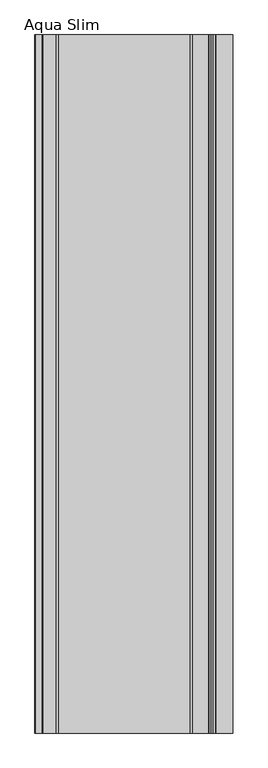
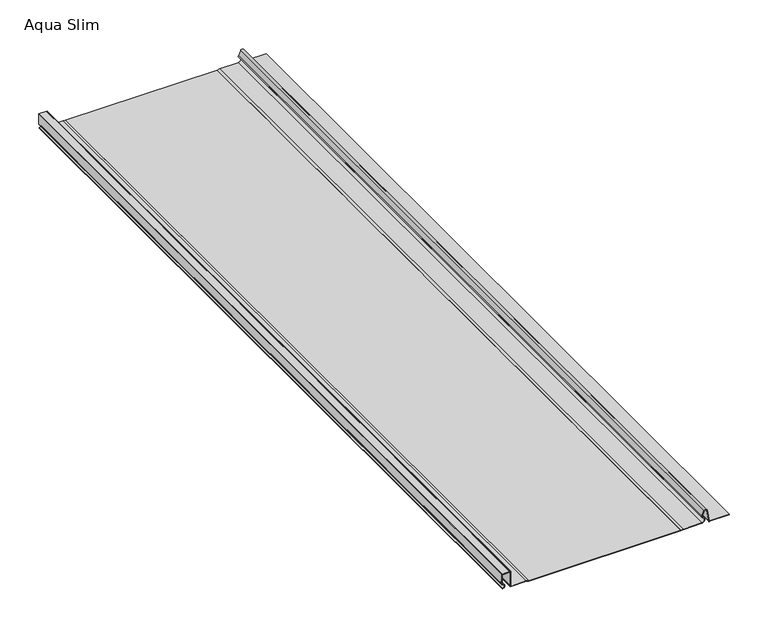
"""IFC4 building model written with IfcOpenShell, lengths in millimetres: proxy geometry, AQUAPLAST - Panel Dachowy i Elewacyjny Aqua Slim : Aqua Slim."""

from ifc_helpers import new_model, si_unit, point, frame, frame_2d, origin, origin_with_axes, place, context, project, spatial, polyline, circle_curve, trimmed, segment, composite_curve, outline, extrude, source, transform, mapped, element, save


def aqua_slim_c8a89959(model_context):
    return source(origin(), model_context, "Body", "SweptSolid", [
        extrude(outline(composite_curve([segment(polyline([(0.8, 168.4), (0.8, 138.958412)]), True, "CONTINUOUS"), segment(trimmed(circle_curve(frame_2d((1.4640676, 138.958412)), 0.6640676), [point((0.8, 138.958412))], [point((1.3501315, 138.3041916))], True, "CARTESIAN"), True, "CONTINUOUS"), segment(polyline([(1.3501315, 138.3041916), (18.7653554, 135.2712349)]), True, "CONTINUOUS"), segment(trimmed(circle_curve(frame_2d((18.1818617, 132.6281389)), 2.7067363), [point((18.7653554, 135.2712349))], [point((19.5352298, 130.2840366))], False, "CARTESIAN"), True, "CONTINUOUS"), segment(polyline([(19.5352298, 130.2840366), (12.1941629, 127.3237764)]), True, "CONTINUOUS"), segment(trimmed(circle_curve(frame_2d((11.2676679, 129.6213657)), 2.4773594), [point((12.1941629, 127.3237764))], [point((9.0024093, 128.6184133))], False, "CARTESIAN"), True, "CONTINUOUS"), segment(trimmed(circle_curve(frame_2d((5.4667311, 127.0529775)), 3.8667311), [point((9.0024093, 128.6184133))], [point((1.6, 127.0529775))], True, "CARTESIAN"), True, "CONTINUOUS"), segment(polyline([(1.6, 127.0529775), (1.6, 99.2000503), (0.8, 95.7000503), (0.0, 95.7000503), (0.8, 99.2000503), (0.8, 126.8938021)]), True, "CONTINUOUS"), segment(trimmed(circle_curve(frame_2d((5.5014361, 126.8938021)), 4.7014361), [point((0.8, 126.8938021))], [point((9.7513874, 128.9041293))], False, "CARTESIAN"), True, "CONTINUOUS"), segment(trimmed(circle_curve(frame_2d((11.2676679, 129.6213657)), 1.6773594), [point((9.7513874, 128.9041293))], [point((11.8934079, 128.0650932))], True, "CARTESIAN"), True, "CONTINUOUS"), segment(polyline([(11.8934079, 128.0650932), (19.1352298, 130.9768569)]), True, "CONTINUOUS"), segment(trimmed(circle_curve(frame_2d((18.1818617, 132.6281389)), 1.9067363), [point((19.1352298, 130.9768569))], [point((18.4803326, 134.5113697))], True, "CARTESIAN"), True, "CONTINUOUS"), segment(polyline([(18.4803326, 134.5113697), (0.6241817, 137.3413691)]), True, "CONTINUOUS"), segment(trimmed(circle_curve(frame_2d((0.7400208, 138.0722673)), 0.7400208), [point((0.6241817, 137.3413691))], [point((0.0, 138.0722673))], False, "CARTESIAN"), True, "CONTINUOUS"), segment(polyline([(0.0, 138.0722673), (0.0, 168.4), (0.8, 168.4)]), True, "CONTINUOUS")], self_intersect=False)), frame((0.0, 0.0, 0.0), z_axis=(0.0, 1.0, 0.0), x_axis=(0.0, 0.0, 1.0)), (0.0, 0.0, 1.0), 1200.0),
        extrude(outline(composite_curve([segment(polyline([(1.6, -135.0), (1.6, -158.1)]), True, "CONTINUOUS"), segment(trimmed(circle_curve(frame_2d((2.1, -158.1)), 0.5), [point((1.6, -158.1))], [point((2.1, -158.6))], True, "CARTESIAN"), True, "CONTINUOUS"), segment(polyline([(2.1, -158.6), (24.5, -158.6)]), True, "CONTINUOUS"), segment(trimmed(circle_curve(frame_2d((24.5, -159.1)), 0.5), [point((24.5, -158.6))], [point((25.0, -159.1))], False, "CARTESIAN"), True, "CONTINUOUS"), segment(polyline([(25.0, -159.1), (25.0, -171.1)]), True, "CONTINUOUS"), segment(trimmed(circle_curve(frame_2d((24.5, -171.1)), 0.5), [point((25.0, -171.1))], [point((24.5, -171.6))], False, "CARTESIAN"), True, "CONTINUOUS"), segment(polyline([(24.5, -171.6), (8.8039223, -171.6)]), True, "CONTINUOUS"), segment(trimmed(circle_curve(frame_2d((8.8039223, -170.9250457)), 0.6749543), [point((8.8039223, -171.6))], [point((8.1289934, -170.9191923))], False, "CARTESIAN"), True, "CONTINUOUS"), segment(trimmed(circle_curve(frame_2d((5.3847863, -170.9191923)), 2.7442071), [point((8.1289934, -170.9191923))], [point((2.6405793, -170.9191923))], True, "CARTESIAN"), True, "CONTINUOUS"), segment(polyline([(2.6405793, -170.9191923), (1.8403383, -170.9191923)]), True, "CONTINUOUS"), segment(trimmed(circle_curve(frame_2d((5.4137846, -170.9191923)), 3.5734462), [point((1.8403383, -170.9191923))], [point((8.9478642, -170.3902321))], False, "CARTESIAN"), True, "CONTINUOUS"), segment(trimmed(circle_curve(frame_2d((9.7850119, -169.9539484)), 0.9440125), [point((8.9478642, -170.3902321))], [point((9.7850119, -170.897961))], True, "CARTESIAN"), True, "CONTINUOUS"), segment(polyline([(9.7850119, -170.897961), (23.6993591, -170.897961)]), True, "CONTINUOUS"), segment(trimmed(circle_curve(frame_2d((23.6993591, -170.3966773)), 0.5012837), [point((23.6993591, -170.897961))], [point((24.2006428, -170.3966773))], True, "CARTESIAN"), True, "CONTINUOUS"), segment(polyline([(24.2006428, -170.3966773), (24.2006428, -159.9001579)]), True, "CONTINUOUS"), segment(trimmed(circle_curve(frame_2d((23.7003195, -159.9001579)), 0.5003233), [point((24.2006428, -159.9001579))], [point((23.7003195, -159.3998346))], True, "CARTESIAN"), True, "CONTINUOUS"), segment(polyline([(23.7003195, -159.3998346), (1.2999699, -159.3998346)]), True, "CONTINUOUS"), segment(trimmed(circle_curve(frame_2d((1.2999699, -158.8999248)), 0.4999098), [point((1.2999699, -159.3998346))], [point((0.8000601, -158.8999248))], False, "CARTESIAN"), True, "CONTINUOUS"), segment(polyline([(0.8000601, -158.8999248), (0.8000601, -135.0), (0.0, -131.5), (0.8, -131.5), (1.6, -135.0)]), True, "CONTINUOUS")], self_intersect=False)), frame((0.0, 0.0, 0.0), z_axis=(0.0, 1.0, 0.0), x_axis=(0.0, 0.0, 1.0)), (0.0, 0.0, 1.0), 1200.0),
        extrude(outline(polyline([(-131.5, 1200.0), (95.7000503, 1200.0), (95.7000503, 0.0), (-131.5, 0.0), (-131.5, 1200.0)])), origin_with_axes(), (0.0, 0.0, 1.0), 0.8),
    ])


if __name__ == "__main__":
    model = new_model("IFC4")
    model_context = context("Model", 3, world=origin())
    ifc_project = project(units=[si_unit("LENGTHUNIT", "METRE", prefix="MILLI")], contexts=[model_context])
    site = spatial("IfcSite", under=ifc_project)
    building = spatial("IfcBuilding", under=site)
    placement = place(None, origin())
    aqua_slim_shape = aqua_slim_c8a89959(model_context)
    element("IfcBuildingElementProxy", 1, Name="AQUAPLAST - Panel Dachowy i Elewacyjny Aqua Slim : Aqua Slim", ObjectType="AQUAPLAST - Panel Dachowy i Elewacyjny Aqua Slim : Aqua Slim", at=placement, inside=building, context=model_context, shape_type="MappedRepresentation", body=[
        mapped(aqua_slim_shape, transform((0.0, 0.0, 0.0), x_axis=(1.0, 0.0, 0.0), y_axis=(0.0, 1.0, 0.0), z_axis=(0.0, 0.0, 1.0))),
    ])
    save(model, "model.ifc")
